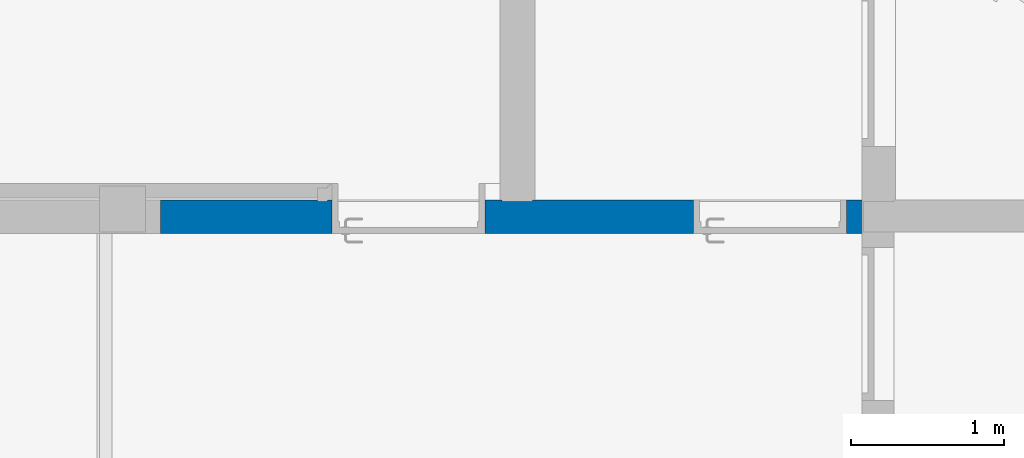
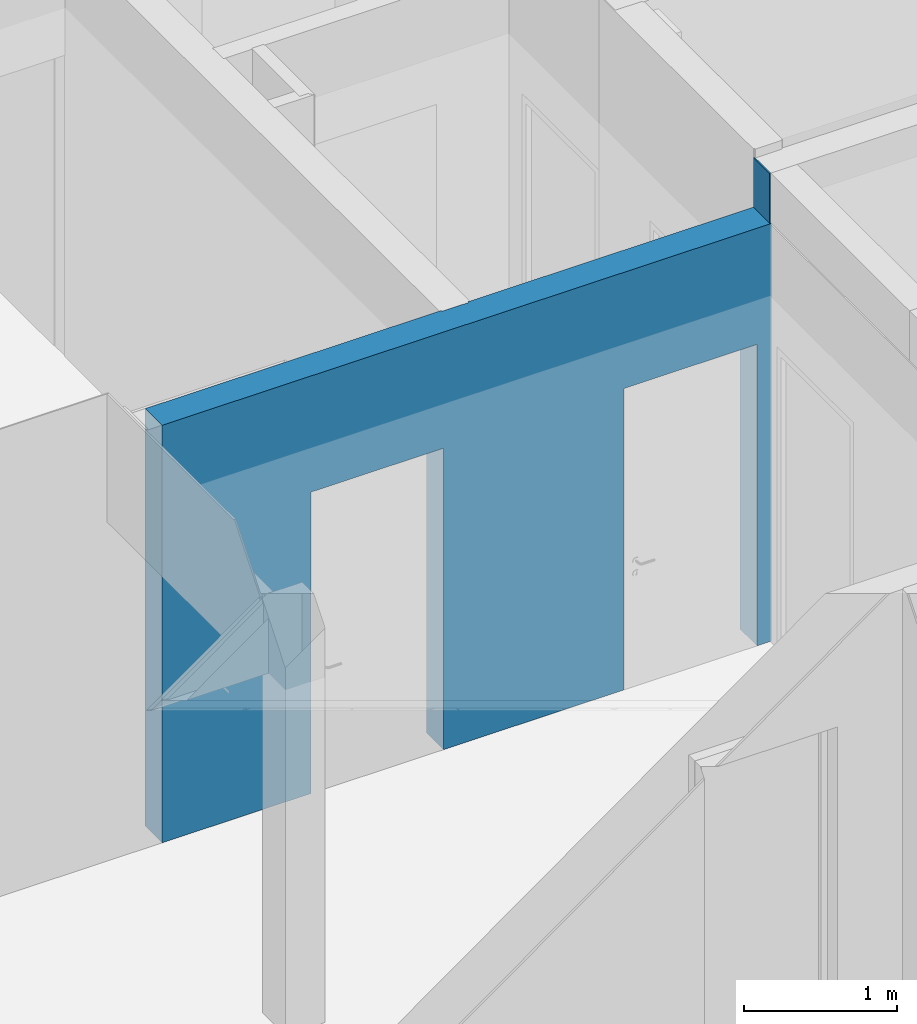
# One storey, part 111 of 246: 1 wall, 2 openings.
"""IFC2X3 building model written with IfcOpenShell, lengths in millimetres."""

import ifcopenshell
import ifcopenshell.guid

model = None  # the IFC model being written
_history = None  # IfcOwnerHistory: only IFC2X3 demands one
_inside = {}  # id of a spatial element -> (the spatial element, [elements in it])
_under = {}  # id of a project, library or spatial element -> (it, [spatial elements below it])
_declared = {}  # id of a project -> (the project, [libraries it declares])
_typed = {}  # id of a type object -> (the type object, [elements of that type])
_made_of = {}  # id of a material, layer set ... -> (it, [elements and type objects made of it])


def new_model(schema):
    """Start an empty IFC model of exactly this schema.

    Asked for "IFC4X3", IfcOpenShell would pick the latest addendum, in which some entities
    have other attributes; the version numbers below select the first issue.
    IFC2X3 requires an IfcOwnerHistory on every rooted entity: one is made here for all.
    """
    global model, _history
    if schema == "IFC4X3":
        model = ifcopenshell.file(schema_version=(4, 3, 0, 0))
    else:
        model = ifcopenshell.file(schema=schema)
    _inside.clear()
    _under.clear()
    _declared.clear()
    _typed.clear()
    _made_of.clear()
    _history = None
    if model.schema == "IFC2X3":
        org = make("IfcOrganization", Name="unknown")
        user = make(
            "IfcPersonAndOrganization",
            ThePerson=make("IfcPerson", FamilyName="unknown"),
            TheOrganization=org,
        )
        app = make(
            "IfcApplication",
            ApplicationDeveloper=org,
            Version="unknown",
            ApplicationFullName="unknown",
            ApplicationIdentifier="unknown",
        )
        _history = make(
            "IfcOwnerHistory",
            OwningUser=user,
            OwningApplication=app,
            ChangeAction="ADDED",
            CreationDate=0,
        )
    return model


def make(cls, **values):
    """One entity of the class cls with the attributes given. An attribute that is None is left unset."""
    return model.create_entity(
        cls, **{name: value for name, value in values.items() if value is not None}
    )


def entity(cls, *values):
    """Any entity or typed value of the class cls, its attributes in the order of the schema. None: left unset."""
    e = model.create_entity(cls)
    for i, value in enumerate(values):
        if value is not None:
            e[i] = value
    return e


def rooted(cls, **values):
    """An entity with a GlobalId (a new one), such as an element, a storey or a relation."""
    return make(cls, GlobalId=ifcopenshell.guid.new(), OwnerHistory=_history, **values)


def si_unit(unit_type, name, prefix=None):
    """IfcSIUnit, for example si_unit("LENGTHUNIT", "METRE", prefix="MILLI")."""
    return make("IfcSIUnit", UnitType=unit_type, Prefix=prefix, Name=name)


def converted_unit(unit_type, name, factor, base, dimensions=None, offset=None):
    """IfcConversionBasedUnit, such as the inch: factor (a typed value) times the base unit."""
    return make(
        "IfcConversionBasedUnit"
        if offset is None
        else "IfcConversionBasedUnitWithOffset",
        ConversionOffset=offset,
        Dimensions=None
        if dimensions is None
        else entity("IfcDimensionalExponents", *dimensions),
        UnitType=unit_type,
        Name=name,
        ConversionFactor=make(
            "IfcMeasureWithUnit", ValueComponent=factor, UnitComponent=base
        ),
    )


def derived_unit(unit_type, elements):
    """IfcDerivedUnit: a product of units, each with its exponent."""
    return make(
        "IfcDerivedUnit",
        Elements=[
            make("IfcDerivedUnitElement", Unit=unit, Exponent=power)
            for unit, power in elements
        ],
        UnitType=unit_type,
    )


def money_unit(currency):
    """IfcMonetaryUnit."""
    return make("IfcMonetaryUnit", Currency=currency)


def assignment(units):
    """IfcUnitAssignment: the units of a project."""
    return None if units is None else make("IfcUnitAssignment", Units=units)


def point(xyz):
    """IfcCartesianPoint."""
    return None if xyz is None else make("IfcCartesianPoint", Coordinates=xyz)


def direction(xyz):
    """IfcDirection."""
    return None if xyz is None else make("IfcDirection", DirectionRatios=xyz)


def frame(location, z_axis=None, x_axis=None):
    """IfcAxis2Placement3D, a coordinate frame: its origin and axes. An axis left out is left unset."""
    return make(
        "IfcAxis2Placement3D",
        Location=point(location),
        Axis=direction(z_axis),
        RefDirection=direction(x_axis),
    )


def origin_with_axes():
    """The frame at (0, 0, 0) with the z axis (0, 0, 1) and the x axis (1, 0, 0) written out."""
    return frame((0.0, 0.0, 0.0), z_axis=(0.0, 0.0, 1.0), x_axis=(1.0, 0.0, 0.0))


def place(relative_to, where):
    """IfcLocalPlacement: puts the frame where relative to a parent placement (None: the world)."""
    return make(
        "IfcLocalPlacement", PlacementRelTo=relative_to, RelativePlacement=where
    )


def context(
    kind, dimensions, precision=None, world=None, true_north=None, identifier=None
):
    """IfcGeometricRepresentationContext, for example the 3D "Model" context."""
    return make(
        "IfcGeometricRepresentationContext",
        ContextIdentifier=identifier,
        ContextType=kind,
        CoordinateSpaceDimension=dimensions,
        Precision=precision,
        WorldCoordinateSystem=world,
        TrueNorth=true_north,
    )


def subcontext(parent, identifier, kind, view, scale=None):
    """IfcGeometricRepresentationSubContext, for example "Body" below "Model"."""
    return make(
        "IfcGeometricRepresentationSubContext",
        ContextIdentifier=identifier,
        ContextType=kind,
        ParentContext=parent,
        TargetScale=scale,
        TargetView=view,
    )


def project(units=None, contexts=None):
    """IfcProject with its units and contexts."""
    return rooted(
        "IfcProject",
        Name="project",
        RepresentationContexts=contexts,
        UnitsInContext=assignment(units),
    )


def spatial(cls, under=None, at=None, **own):
    """A site, building, storey or space (cls), placed at a placement, below another one or the project."""
    s = rooted(cls, ObjectPlacement=at, **own)
    if under is not None:
        _under.setdefault(under.id(), (under, []))[1].append(s)
    return s


def faces_of(points, faces, orient=None, outer=None):
    """IfcFace entities. A face is a list of loops; a loop is a list of indices into points, from 0.

    orient and outer hold one flag for each loop. By default every Orientation is true, the
    first loop of a face is its IfcFaceOuterBound and the others are IfcFaceBound.
    """
    made = []
    for i, loops in enumerate(faces):
        bounds = []
        for j, loop in enumerate(loops):
            is_outer = j == 0 if outer is None else outer[i][j]
            bounds.append(
                make(
                    "IfcFaceOuterBound" if is_outer else "IfcFaceBound",
                    Bound=make("IfcPolyLoop", Polygon=[points[k] for k in loop]),
                    Orientation=True if orient is None else orient[i][j],
                )
            )
        made.append(make("IfcFace", Bounds=bounds))
    return made


def faceted_brep(points, faces, orient=None, outer=None, voids=None):
    """IfcFacetedBrep: a solid bounded by flat faces; with voids (closed shells), ...WithVoids."""
    shared = [point(p) for p in points]
    hull = make("IfcClosedShell", CfsFaces=faces_of(shared, faces, orient, outer))
    if voids is None:
        return make("IfcFacetedBrep", Outer=hull)
    return make(
        "IfcFacetedBrepWithVoids",
        Outer=hull,
        Voids=[
            make(cls, CfsFaces=faces_of(shared, fs, o, b)) for cls, fs, o, b in voids
        ],
    )


def shape(context_of_items, identifier, shape_type, items):
    """IfcShapeRepresentation: the items that make up one representation, for example the "Body"."""
    return make(
        "IfcShapeRepresentation",
        ContextOfItems=context_of_items,
        RepresentationIdentifier=identifier,
        RepresentationType=shape_type,
        Items=items,
    )


def material(Name=None, Category=None):
    """IfcMaterial."""
    return make("IfcMaterial", Name=Name, Category=Category)


def material_list(materials):
    """IfcMaterialList."""
    return make("IfcMaterialList", Materials=materials)


def made_of(thing, what):
    """Note that an element or type object is made of a material, layer set ...; save() writes the relation."""
    if what is not None:
        _made_of.setdefault(what.id(), (what, []))[1].append(thing)
    return thing


def type_object(cls, material=None, **own):
    """A type object (cls), such as IfcWallType, which elements share."""
    return made_of(rooted(cls, **own), material)


def element(
    cls,
    number,
    at=None,
    inside=None,
    cuts=None,
    type_object=None,
    material=None,
    context=None,
    identifier="Body",
    shape_type=None,
    held_by="IfcProductDefinitionShape",
    body=None,
    shapes=None,
    **own,
):
    """One element of the class cls, such as IfcWall. Its Tag is "e" and its number.

    at: its placement. inside: the storey or other place that contains it. cuts: it is an
    opening in that element (IfcRelVoidsElement). A single representation is given by context,
    identifier, shape_type and body (its items); several are given by shapes. held_by: the class
    of the entity that holds the representations. save() writes the other relations.
    """
    e = rooted(cls, Tag="e%d" % number, ObjectPlacement=at, **own)
    if body is not None:
        shapes = [shape(context, identifier, shape_type, body)]
    if shapes is not None:
        e.Representation = make(held_by, Representations=shapes)
    if inside is not None:
        _inside.setdefault(inside.id(), (inside, []))[1].append(e)
    if cuts is not None:
        rooted(
            "IfcRelVoidsElement", RelatingBuildingElement=cuts, RelatedOpeningElement=e
        )
    if type_object is not None:
        _typed.setdefault(type_object.id(), (type_object, []))[1].append(e)
    return made_of(e, material)


def aggregate(whole, parts):
    """IfcRelAggregates: a whole, such as a stair, and the parts it consists of."""
    return rooted("IfcRelAggregates", RelatingObject=whole, RelatedObjects=parts)


def save(model, path):
    """Write the relations noted so far, then the file.

    IfcRelAggregates (storeys below a building ...), IfcRelContainedInSpatialStructure (elements
    in a storey), IfcRelDefinesByType, IfcRelAssociatesMaterial and IfcRelDeclares: one each for
    every whole, place, type object, material and project.
    """
    for whole, parts in _under.values():
        aggregate(whole, parts)
    for where, things in _inside.values():
        rooted(
            "IfcRelContainedInSpatialStructure",
            RelatedElements=things,
            RelatingStructure=where,
        )
    for kind, things in _typed.values():
        rooted("IfcRelDefinesByType", RelatedObjects=things, RelatingType=kind)
    for what, things in _made_of.values():
        rooted("IfcRelAssociatesMaterial", RelatedObjects=things, RelatingMaterial=what)
    for by, libraries in _declared.values():
        rooted("IfcRelDeclares", RelatingContext=by, RelatedDefinitions=libraries)
    model.write(path)


model = new_model("IFC2X3")

# Units and contexts
model_context = context("Model", 3, precision=0.01, world=origin_with_axes(), true_north=direction((0.0, 1.0)))
body_context = subcontext(model_context, "Body", "Model", "MODEL_VIEW")
ifc_project = project(units=[si_unit("LENGTHUNIT", "METRE", prefix="MILLI"), si_unit("AREAUNIT", "SQUARE_METRE"), si_unit("VOLUMEUNIT", "CUBIC_METRE"), converted_unit("PLANEANGLEUNIT", "DEGREE", entity("IfcPlaneAngleMeasure", 0.0174532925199), si_unit("PLANEANGLEUNIT", "RADIAN"), dimensions=[0, 0, 0, 0, 0, 0, 0]), si_unit("SOLIDANGLEUNIT", "STERADIAN"), money_unit("EUR"), converted_unit("TIMEUNIT", "Year", entity("IfcTimeMeasure", 31556926.0), si_unit("TIMEUNIT", "SECOND"), dimensions=[0, 0, 1, 0, 0, 0, 0]), si_unit("MASSUNIT", "GRAM", prefix="KILO"), si_unit("THERMODYNAMICTEMPERATUREUNIT", "DEGREE_CELSIUS"), si_unit("LUMINOUSINTENSITYUNIT", "LUMEN"), si_unit("ENERGYUNIT", "JOULE", prefix="MEGA"), derived_unit("THERMALCONDUCTANCEUNIT", [(si_unit("POWERUNIT", "WATT"), 1), (si_unit("LENGTHUNIT", "METRE"), -1), (si_unit("THERMODYNAMICTEMPERATUREUNIT", "KELVIN"), -1)]), derived_unit("SPECIFICHEATCAPACITYUNIT", [(si_unit("ENERGYUNIT", "JOULE"), 1), (si_unit("MASSUNIT", "GRAM", prefix="KILO"), -1), (si_unit("THERMODYNAMICTEMPERATUREUNIT", "KELVIN"), -1)]), derived_unit("MASSDENSITYUNIT", [(si_unit("MASSUNIT", "GRAM", prefix="KILO"), 1), (si_unit("VOLUMEUNIT", "CUBIC_METRE"), -1)])], contexts=[model_context])

# Site, building, storey
site_placement = place(None, origin_with_axes())
site = spatial("IfcSite", under=ifc_project, at=site_placement, Name="L.Koidula tn 11b", CompositionType="ELEMENT")
building_placement = place(site_placement, origin_with_axes())
building = spatial("IfcBuilding", under=site, at=building_placement, Name="Rakvere Riigigümnaasium", CompositionType="ELEMENT")
storey_placement = place(building_placement, origin_with_axes())
storey = spatial("IfcBuildingStorey", under=building, at=storey_placement, Name="1.korrus 0,00", CompositionType="ELEMENT", Elevation=0.0)

# Wall, openings
ifc_material_1 = material(Name="siseviimistlus-seinad")
ifc_material_2 = material(Name="Betoon element / plaat")
ifc_material_list = material_list([ifc_material_1, ifc_material_2, ifc_material_1])
wall_type = type_object("IfcWallType", Name="SS-01-2 220", PredefinedType="NOTDEFINED")
wall_placement = place(storey_placement, frame((75989.7786491, 17110.4555225, 0.0), z_axis=(0.0, 0.0, 1.0), x_axis=(-1.0, 0.0, 0.0)))
wall = element("IfcWall", 1, at=wall_placement, inside=storey, type_object=wall_type, material=ifc_material_list, Name="Sisesein", context=body_context, shape_type="Brep", body=[
    faceted_brep([(1109.49973919, 3.68409267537e-05, 2400.0), (1109.49973919, 0.0, 0.0), (2469.78047995, 0.0, 0.0), (2469.78047995, 3.68409267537e-05, 2400.0), (3469.78048007, 3.68409267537e-05, 2400.0), (3469.78048007, 0.0, 0.0), (4589.77856273, 0.0, 0.0), (4589.77856273, 3.68409267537e-05, 3325.0), (0.0, 3.68409267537e-05, 3325.0), (0.0, 0.0, 0.0), (109.499739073, 0.0, 0.0), (109.499739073, 3.68409267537e-05, 2400.0), (1109.49973919, 10.0, 2400.0), (1109.49973919, 10.0, 0.0), (2469.78047995, 10.0, 0.0), (2469.78047995, 10.0, 2400.0), (3469.78048007, 10.0, 2400.0), (3469.78048007, 10.0, 0.0), (4589.77856273, 10.0, 0.0), (4589.77856273, 10.0, 3325.0), (0.0, 10.0, 3325.0), (0.0, 10.0, 0.0), (109.499739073, 10.0, 0.0), (109.499739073, 10.0, 2400.0)], [[[0, 1, 2, 3, 4, 5, 6, 7, 8, 9, 10, 11]], [[1, 0, 12, 13]], [[1, 13, 14, 2]], [[2, 14, 15, 3]], [[3, 15, 16, 4]], [[4, 16, 17, 5]], [[17, 18, 6, 5]], [[6, 18, 19, 7]], [[7, 19, 20, 8]], [[21, 9, 8, 20]], [[22, 10, 9, 21]], [[11, 10, 22, 23]], [[0, 11, 23, 12]], [[23, 22, 21, 20, 19, 18, 17, 16, 15, 14, 13, 12]]]),
    faceted_brep([(109.499739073, -70.0, 0.0), (109.499739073, 0.0, 0.0), (109.499739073, 0.0, 2400.0), (109.499739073, -200.0, 2400.0), (109.499739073, -200.0, 0.0), (0.0, -200.0, 0.0), (0.0, 0.0, 0.0), (0.0, 0.0, 3720.0), (9.79876140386, 1.77197385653e-05, 3720.0), (9.79876140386, 1.77197385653e-05, 3325.0), (4589.77856273, 1.77197385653e-05, 3325.0), (4589.77856273, 0.0, 0.0), (3469.78048007, 0.0, 0.0), (3469.78048007, 0.0, 2400.0), (2469.78047995, 0.0, 2400.0), (2469.78047995, 0.0, 0.0), (1109.49973919, 0.0, 0.0), (1109.49973919, 0.0, 2400.0), (1109.49973919, -200.0, 2400.0), (1109.49973919, -200.0, 0.0), (2469.78047995, -200.0, 0.0), (2469.78047995, -200.0, 2400.0), (3469.78048007, -200.0, 2400.0), (3469.78048007, -200.0, 0.0), (4589.77856273, -200.0, 0.0), (4589.77856273, -200.0, 3325.0), (9.79876140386, -200.0, 3325.0), (9.79876140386, -200.0, 3720.0), (0.0, -200.0, 3720.0), (1109.49973919, -70.0, 0.0)], [[[0, 1, 2, 3, 4]], [[1, 0, 4, 5, 6]], [[2, 1, 6, 7, 8, 9, 10, 11, 12, 13, 14, 15, 16, 17]], [[3, 2, 17, 18]], [[5, 4, 3, 18, 19, 20, 21, 22, 23, 24, 25, 26, 27, 28]], [[5, 28, 7, 6]], [[27, 8, 7, 28]], [[27, 26, 9, 8]], [[26, 25, 10, 9]], [[10, 25, 24, 11]], [[24, 23, 12, 11]], [[23, 22, 13, 12]], [[13, 22, 21, 14]], [[21, 20, 15, 14]], [[29, 16, 15, 20, 19]], [[17, 16, 29, 19, 18]]]),
    faceted_brep([(3469.78048007, -210.0, 2400.0), (3469.78048007, -210.0, 0.0), (3500.28048007, -210.0, 0.0), (3500.28048007, -210.0, 3255.0), (3566.28048007, -210.0, 3255.0), (3566.28048007, -210.0, 0.0), (4589.77856273, -210.0, 0.0), (4589.77856273, -210.0, 3325.0), (2359.78047826, -210.0, 3325.0), (2359.78047826, -210.0, 0.0), (2469.78047995, -210.0, 0.0), (2469.78047995, -210.0, 2400.0), (3469.78048007, -200.0, 2400.0), (3469.78048007, -200.0, 0.0), (3500.28048007, -200.0, 0.0), (3500.28048007, -200.0, 3255.0), (3566.28048007, -200.0, 3255.0), (3566.28048007, -200.0, 0.0), (4589.77856273, -200.0, 0.0), (4589.77856273, -200.0, 3325.0), (2359.78047826, -200.0, 3325.0), (2359.78047826, -200.0, 0.0), (2469.78047995, -200.0, 0.0), (2469.78047995, -200.0, 2400.0)], [[[0, 1, 2, 3, 4, 5, 6, 7, 8, 9, 10, 11]], [[1, 0, 12, 13]], [[1, 13, 14, 2]], [[3, 2, 14, 15]], [[4, 3, 15, 16]], [[5, 4, 16, 17]], [[5, 17, 18, 6]], [[7, 6, 18, 19]], [[8, 7, 19, 20]], [[20, 21, 9, 8]], [[22, 10, 9, 21]], [[11, 10, 22, 23]], [[0, 11, 23, 12]], [[23, 22, 21, 20, 19, 18, 17, 16, 15, 14, 13, 12]]]),
    faceted_brep([(1109.49973919, -210.0, 2400.0), (1109.49973919, -210.0, 0.0), (2159.78047826, -210.0, 0.0), (2159.78047826, -210.0, 3325.0), (9.79876140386, -210.0, 3325.0), (9.79876140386, -210.0, 3720.0), (0.0, -210.0, 3720.0), (0.0, -210.0, 0.0), (109.499739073, -210.0, 0.0), (109.499739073, -210.0, 2400.0), (1109.49973919, -200.0, 2400.0), (1109.49973919, -200.0, 0.0), (2159.78047826, -200.0, 0.0), (2159.78047826, -200.0, 3325.0), (9.79876140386, -200.0, 3325.0), (9.79876140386, -200.0, 3720.0), (0.0, -200.0, 3720.0), (0.0, -200.0, 0.0), (109.499739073, -200.0, 0.0), (109.499739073, -200.0, 2400.0)], [[[0, 1, 2, 3, 4, 5, 6, 7, 8, 9]], [[1, 0, 10, 11]], [[1, 11, 12, 2]], [[3, 2, 12, 13]], [[3, 13, 14, 4]], [[4, 14, 15, 5]], [[15, 16, 6, 5]], [[6, 16, 17, 7]], [[18, 8, 7, 17]], [[9, 8, 18, 19]], [[0, 9, 19, 10]], [[19, 18, 17, 16, 15, 14, 13, 12, 11, 10]]]),
])
opening_1_placement = place(wall_placement, frame((2969.78048001, 0.0, 0.0), z_axis=(0.0, 0.0, 1.0), x_axis=(1.0, 0.0, 0.0)))
element("IfcOpeningElement", 2, at=opening_1_placement, cuts=wall, Name="SU-039", context=body_context, shape_type="Brep", body=[
    faceted_brep([(-500.000000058, -70.0, 2400.0), (-500.000000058, -70.0, 0.0), (-500.000000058, -430.0, 0.0), (-500.000000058, -430.0, 2400.0), (500.000000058, -70.0, 2400.0), (500.000000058, -70.0, 0.0), (500.000000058, -430.0, 0.0), (500.000000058, -430.0, 2400.0)], [[[0, 1, 2, 3]], [[0, 4, 5, 1]], [[1, 5, 6, 2]], [[3, 2, 6, 7]], [[4, 0, 3, 7]], [[5, 4, 7, 6]]]),
    faceted_brep([(-500.000000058, -70.0, 0.0), (-500.000000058, -70.0, 2400.0), (-500.000000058, 230.0, 2400.0), (-500.000000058, 230.0, 0.0), (500.000000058, -70.0, 0.0), (500.000000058, -70.0, 2400.0), (500.000000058, 230.0, 2400.0), (500.000000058, 230.0, 0.0)], [[[0, 1, 2, 3]], [[0, 4, 5, 1]], [[1, 5, 6, 2]], [[3, 2, 6, 7]], [[4, 0, 3, 7]], [[5, 4, 7, 6]]]),
    faceted_brep([(-500.000000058, -210.0, 2400.0), (-500.000000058, -210.0, 0.0), (-500.000000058, -570.0, 0.0), (-500.000000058, -570.0, 2400.0), (500.000000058, -210.0, 2400.0), (500.000000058, -210.0, 0.0), (500.000000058, -570.0, 0.0), (500.000000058, -570.0, 2400.0)], [[[0, 1, 2, 3]], [[0, 4, 5, 1]], [[1, 5, 6, 2]], [[3, 2, 6, 7]], [[4, 0, 3, 7]], [[5, 4, 7, 6]]]),
])
opening_2_placement = place(wall_placement, frame((609.499739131, 0.0, 0.0), z_axis=(0.0, 0.0, 1.0), x_axis=(1.0, 0.0, 0.0)))
element("IfcOpeningElement", 3, at=opening_2_placement, cuts=wall, Name="SU-036", context=body_context, shape_type="Brep", body=[
    faceted_brep([(-500.000000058, -70.0, 2400.0), (-500.000000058, -70.0, 0.0), (-500.000000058, -430.0, 0.0), (-500.000000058, -430.0, 2400.0), (500.000000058, -70.0, 2400.0), (500.000000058, -70.0, 0.0), (500.000000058, -430.0, 0.0), (500.000000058, -430.0, 2400.0)], [[[0, 1, 2, 3]], [[0, 4, 5, 1]], [[1, 5, 6, 2]], [[3, 2, 6, 7]], [[4, 0, 3, 7]], [[5, 4, 7, 6]]]),
    faceted_brep([(-500.000000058, -70.0, 0.0), (-500.000000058, -70.0, 2400.0), (-500.000000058, 230.0, 2400.0), (-500.000000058, 230.0, 0.0), (500.000000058, -70.0, 0.0), (500.000000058, -70.0, 2400.0), (500.000000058, 230.0, 2400.0), (500.000000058, 230.0, 0.0)], [[[0, 1, 2, 3]], [[0, 4, 5, 1]], [[1, 5, 6, 2]], [[3, 2, 6, 7]], [[4, 0, 3, 7]], [[5, 4, 7, 6]]]),
])

save(model, "model.ifc")
